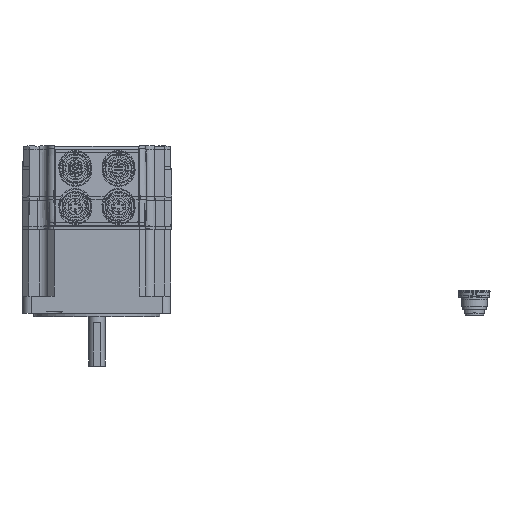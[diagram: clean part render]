
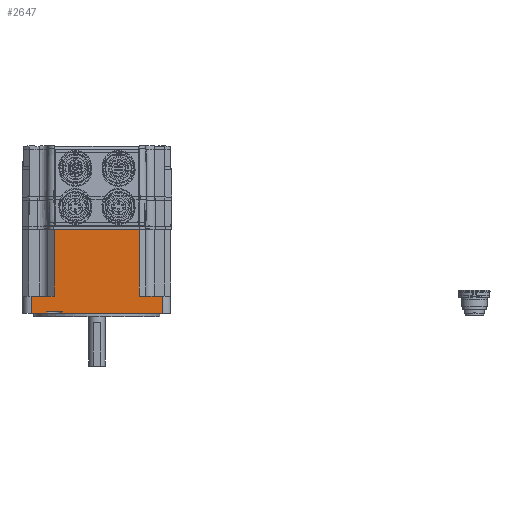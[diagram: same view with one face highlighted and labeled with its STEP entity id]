
A CAD part, top view. The second image highlights one B-rep face of the part: STEP entity #2647.
In plain terms, the highlighted planar face has unit normal (0, 0, 1).
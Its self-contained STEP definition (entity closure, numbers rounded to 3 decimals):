
#2647 = ADVANCED_FACE( '', ( #5637 ), #5638, .F. );
#5637 = FACE_OUTER_BOUND( '', #9307, .T. );
#5638 = PLANE( '', #9308 );
#9307 = EDGE_LOOP( '', ( #16726, #16727, #16728, #16729, #16730, #16731, #16732, #16733, #16734, #16735, #16736, #16737 ) );
#9308 = AXIS2_PLACEMENT_3D( '', #16738, #16739, #16740 );
#16726 = ORIENTED_EDGE( '', *, *, #21459, .T. );
#16727 = ORIENTED_EDGE( '', *, *, #21243, .F. );
#16728 = ORIENTED_EDGE( '', *, *, #21951, .F. );
#16729 = ORIENTED_EDGE( '', *, *, #21952, .T. );
#16730 = ORIENTED_EDGE( '', *, *, #20703, .T. );
#16731 = ORIENTED_EDGE( '', *, *, #21009, .T. );
#16732 = ORIENTED_EDGE( '', *, *, #19823, .F. );
#16733 = ORIENTED_EDGE( '', *, *, #21953, .T. );
#16734 = ORIENTED_EDGE( '', *, *, #20700, .T. );
#16735 = ORIENTED_EDGE( '', *, *, #21738, .F. );
#16736 = ORIENTED_EDGE( '', *, *, #19072, .F. );
#16737 = ORIENTED_EDGE( '', *, *, #20047, .T. );
#16738 = CARTESIAN_POINT( '', ( 46.966, 176.743, 106.964 ) );
#16739 = DIRECTION( '', ( 0., 0., -1. ) );
#16740 = DIRECTION( '', ( -1., 0., 0. ) );
#19072 = EDGE_CURVE( '', #22529, #22531, #22532, .T. );
#19823 = EDGE_CURVE( '', #23817, #23819, #23820, .T. );
#20047 = EDGE_CURVE( '', #22529, #24173, #24175, .T. );
#20700 = EDGE_CURVE( '', #25182, #25180, #25183, .T. );
#20703 = EDGE_CURVE( '', #25187, #25185, #25188, .T. );
#21009 = EDGE_CURVE( '', #25185, #23819, #25623, .T. );
#21243 = EDGE_CURVE( '', #25939, #25940, #25941, .T. );
#21459 = EDGE_CURVE( '', #24173, #25940, #26211, .T. );
#21738 = EDGE_CURVE( '', #22531, #25180, #26536, .T. );
#21951 = EDGE_CURVE( '', #26773, #25939, #26774, .T. );
#21952 = EDGE_CURVE( '', #26773, #25187, #26775, .T. );
#21953 = EDGE_CURVE( '', #23817, #25182, #26776, .T. );
#22529 = VERTEX_POINT( '', #27412 );
#22531 = VERTEX_POINT( '', #27415 );
#22532 = LINE( '', #27416, #27417 );
#23817 = VERTEX_POINT( '', #29254 );
#23819 = VERTEX_POINT( '', #29257 );
#23820 = LINE( '', #29258, #29259 );
#24173 = VERTEX_POINT( '', #29733 );
#24175 = LINE( '', #29736, #29737 );
#25180 = VERTEX_POINT( '', #31335 );
#25182 = VERTEX_POINT( '', #31337 );
#25183 = LINE( '', #31338, #31339 );
#25185 = VERTEX_POINT( '', #31342 );
#25187 = VERTEX_POINT( '', #31345 );
#25188 = LINE( '', #31346, #31347 );
#25623 = LINE( '', #31934, #31935 );
#25939 = VERTEX_POINT( '', #32348 );
#25940 = VERTEX_POINT( '', #32349 );
#25941 = LINE( '', #32350, #32351 );
#26211 = LINE( '', #32784, #32785 );
#26536 = LINE( '', #33220, #33221 );
#26773 = VERTEX_POINT( '', #33520 );
#26774 = LINE( '', #33521, #33522 );
#26775 = LINE( '', #33523, #33524 );
#26776 = LINE( '', #33525, #33526 );
#27412 = CARTESIAN_POINT( '', ( 71.666, 9.91, 106.964 ) );
#27415 = CARTESIAN_POINT( '', ( 84.966, 9.91, 106.964 ) );
#27416 = CARTESIAN_POINT( '', ( 71.466, 9.91, 106.964 ) );
#27417 = VECTOR( '', #34227, 1000. );
#29254 = CARTESIAN_POINT( '', ( 26.966, 1., 106.964 ) );
#29257 = CARTESIAN_POINT( '', ( 17.966, 1., 106.964 ) );
#29258 = CARTESIAN_POINT( '', ( 22.466, 1., 106.964 ) );
#29259 = VECTOR( '', #35243, 1000. );
#29733 = CARTESIAN_POINT( '', ( 71.666, 48.5, 106.964 ) );
#29736 = CARTESIAN_POINT( '', ( 71.666, -127.06, 106.964 ) );
#29737 = VECTOR( '', #35525, 1000. );
#31335 = CARTESIAN_POINT( '', ( 84.966, 0., 106.964 ) );
#31337 = CARTESIAN_POINT( '', ( 26.966, 0., 106.964 ) );
#31338 = CARTESIAN_POINT( '', ( 46.966, 0., 106.964 ) );
#31339 = VECTOR( '', #36412, 1000. );
#31342 = CARTESIAN_POINT( '', ( 17.966, 0., 106.964 ) );
#31345 = CARTESIAN_POINT( '', ( 8.966, 0., 106.964 ) );
#31346 = CARTESIAN_POINT( '', ( 46.966, 0., 106.964 ) );
#31347 = VECTOR( '', #36415, 1000. );
#31934 = CARTESIAN_POINT( '', ( 17.966, 4., 106.964 ) );
#31935 = VECTOR( '', #36805, 1000. );
#32348 = CARTESIAN_POINT( '', ( 22.266, 9.9, 106.964 ) );
#32349 = CARTESIAN_POINT( '', ( 22.266, 48.5, 106.964 ) );
#32350 = CARTESIAN_POINT( '', ( 22.266, -127.06, 106.964 ) );
#32351 = VECTOR( '', #37099, 1000. );
#32784 = CARTESIAN_POINT( '', ( 71.666, 48.5, 106.964 ) );
#32785 = VECTOR( '', #37355, 1000. );
#33220 = CARTESIAN_POINT( '', ( 84.966, 176.743, 106.964 ) );
#33221 = VECTOR( '', #37682, 1000. );
#33520 = CARTESIAN_POINT( '', ( 8.966, 9.9, 106.964 ) );
#33521 = CARTESIAN_POINT( '', ( 8.966, 9.9, 106.964 ) );
#33522 = VECTOR( '', #37925, 1000. );
#33523 = CARTESIAN_POINT( '', ( 8.966, 176.743, 106.964 ) );
#33524 = VECTOR( '', #37926, 1000. );
#33525 = CARTESIAN_POINT( '', ( 26.966, 4., 106.964 ) );
#33526 = VECTOR( '', #37927, 1000. );
#34227 = DIRECTION( '', ( 1., 0., 0. ) );
#35243 = DIRECTION( '', ( -1., 0., 0. ) );
#35525 = DIRECTION( '', ( 0., 1., 0. ) );
#36412 = DIRECTION( '', ( 1., 0., 0. ) );
#36415 = DIRECTION( '', ( 1., 0., 0. ) );
#36805 = DIRECTION( '', ( 0., 1., 0. ) );
#37099 = DIRECTION( '', ( 0., 1., 0. ) );
#37355 = DIRECTION( '', ( -1., 0., 0. ) );
#37682 = DIRECTION( '', ( 0., -1., 0. ) );
#37925 = DIRECTION( '', ( 1., 0., 0. ) );
#37926 = DIRECTION( '', ( 0., -1., 0. ) );
#37927 = DIRECTION( '', ( 0., -1., 0. ) );
